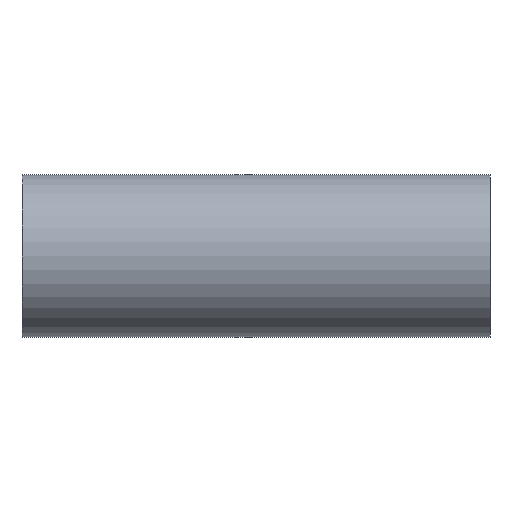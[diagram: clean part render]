
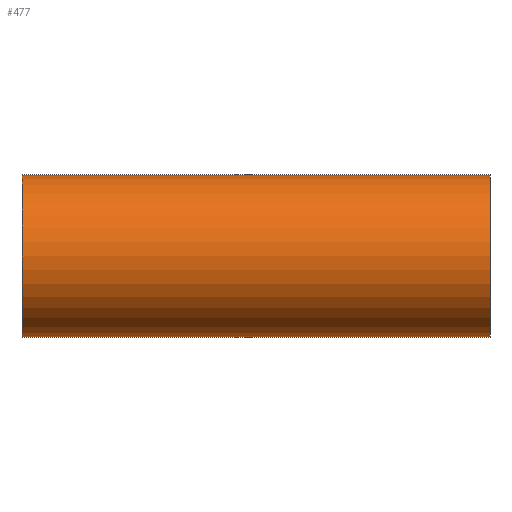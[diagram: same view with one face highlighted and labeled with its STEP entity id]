
A CAD part, front view. The second image highlights one B-rep face of the part: STEP entity #477.
In plain terms, the highlighted cylindrical face has radius 25.4 mm (diameter 50.8 mm), a partial arc.
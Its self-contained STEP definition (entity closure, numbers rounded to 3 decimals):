
#34 = ORIENTED_EDGE ( 'NONE', *, *, #802, .T. ) ;
#58 = FACE_OUTER_BOUND ( 'NONE', #667, .T. ) ;
#69 = VERTEX_POINT ( 'NONE', #1152 ) ;
#90 = LINE ( 'NONE', #146, #1081 ) ;
#146 = CARTESIAN_POINT ( 'NONE',  ( -73., 0., -25.4 ) ) ;
#209 = VERTEX_POINT ( 'NONE', #1003 ) ;
#261 = AXIS2_PLACEMENT_3D ( 'NONE', #316, #992, #409 ) ;
#267 = CARTESIAN_POINT ( 'NONE',  ( -73., 0., 25.4 ) ) ;
#297 = VECTOR ( 'NONE', #835, 1000. ) ;
#304 = ORIENTED_EDGE ( 'NONE', *, *, #781, .T. ) ;
#316 = CARTESIAN_POINT ( 'NONE',  ( 73., 0., 0. ) ) ;
#354 = EDGE_CURVE ( 'NONE', #495, #209, #408, .T. ) ;
#408 = CIRCLE ( 'NONE', #695, 25.4 ) ;
#409 = DIRECTION ( 'NONE',  ( 0., 0., -1. ) ) ;
#469 = AXIS2_PLACEMENT_3D ( 'NONE', #647, #747, #1256 ) ;
#477 = ADVANCED_FACE ( 'NONE', ( #58 ), #1066, .T. ) ;
#490 = ORIENTED_EDGE ( 'NONE', *, *, #354, .T. ) ;
#491 = EDGE_CURVE ( 'NONE', #495, #69, #567, .T. ) ;
#495 = VERTEX_POINT ( 'NONE', #1069 ) ;
#567 = LINE ( 'NONE', #267, #297 ) ;
#647 = CARTESIAN_POINT ( 'NONE',  ( -73., 0., 0. ) ) ;
#667 = EDGE_LOOP ( 'NONE', ( #1271, #490, #34, #304 ) ) ;
#695 = AXIS2_PLACEMENT_3D ( 'NONE', #748, #746, #888 ) ;
#708 = DIRECTION ( 'NONE',  ( 1., 0., 0. ) ) ;
#746 = DIRECTION ( 'NONE',  ( 1., 0., 0. ) ) ;
#747 = DIRECTION ( 'NONE',  ( 1., 0., 0. ) ) ;
#748 = CARTESIAN_POINT ( 'NONE',  ( -73., 0., 0. ) ) ;
#781 = EDGE_CURVE ( 'NONE', #1122, #69, #806, .T. ) ;
#802 = EDGE_CURVE ( 'NONE', #209, #1122, #90, .T. ) ;
#806 = CIRCLE ( 'NONE', #261, 25.4 ) ;
#835 = DIRECTION ( 'NONE',  ( 1., 0., 0. ) ) ;
#888 = DIRECTION ( 'NONE',  ( 0., 0., -1. ) ) ;
#983 = CARTESIAN_POINT ( 'NONE',  ( 73., 0., -25.4 ) ) ;
#992 = DIRECTION ( 'NONE',  ( -1., 0., 0. ) ) ;
#1003 = CARTESIAN_POINT ( 'NONE',  ( -73., 0., -25.4 ) ) ;
#1066 = CYLINDRICAL_SURFACE ( 'NONE', #469, 25.4 ) ;
#1069 = CARTESIAN_POINT ( 'NONE',  ( -73., 0., 25.4 ) ) ;
#1081 = VECTOR ( 'NONE', #708, 1000. ) ;
#1122 = VERTEX_POINT ( 'NONE', #983 ) ;
#1152 = CARTESIAN_POINT ( 'NONE',  ( 73., 0., 25.4 ) ) ;
#1256 = DIRECTION ( 'NONE',  ( 0., 0., -1. ) ) ;
#1271 = ORIENTED_EDGE ( 'NONE', *, *, #491, .F. ) ;
